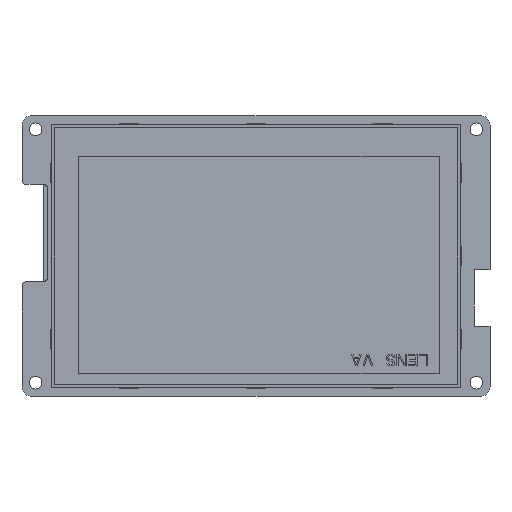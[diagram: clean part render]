
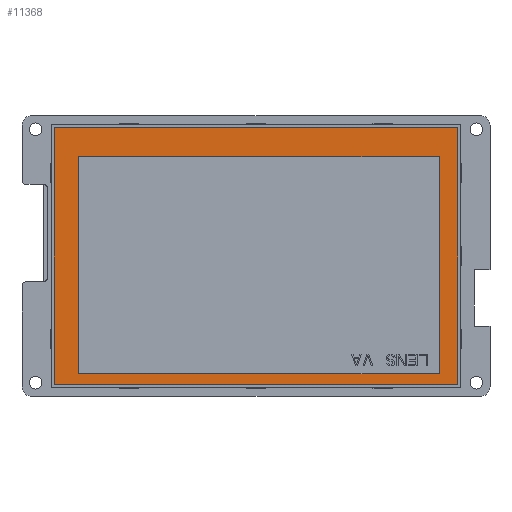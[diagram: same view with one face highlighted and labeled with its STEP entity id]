
A CAD part, front view. The second image highlights one B-rep face of the part: STEP entity #11368.
In plain terms, the highlighted planar face has unit normal (0, -1, 0).
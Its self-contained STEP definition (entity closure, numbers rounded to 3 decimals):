
#9343=CARTESIAN_POINT('',(52.3,0.,-33.2));
#9344=DIRECTION('',(0.,-1.,0.));
#9345=DIRECTION('',(0.,0.,-1.));
#9346=AXIS2_PLACEMENT_3D('',#9343,#9344,#9345);
#9348=DIRECTION('',(-1.,0.,0.));
#9349=VECTOR('',#9348,104.6);
#9350=CARTESIAN_POINT('',(52.3,0.,-33.5));
#9351=LINE('',#9350,#9349);
#9352=CARTESIAN_POINT('',(-52.3,0.,-33.2));
#9353=DIRECTION('',(0.,-1.,0.));
#9354=DIRECTION('',(-1.,0.,0.));
#9355=AXIS2_PLACEMENT_3D('',#9352,#9353,#9354);
#9357=DIRECTION('',(0.,0.,1.));
#9358=VECTOR('',#9357,66.4);
#9359=CARTESIAN_POINT('',(-52.6,0.,-33.2));
#9360=LINE('',#9359,#9358);
#9361=CARTESIAN_POINT('',(-52.3,0.,33.2));
#9362=DIRECTION('',(0.,-1.,0.));
#9363=DIRECTION('',(0.,0.,1.));
#9364=AXIS2_PLACEMENT_3D('',#9361,#9362,#9363);
#9366=DIRECTION('',(1.,0.,0.));
#9367=VECTOR('',#9366,104.6);
#9368=CARTESIAN_POINT('',(-52.3,0.,33.5));
#9369=LINE('',#9368,#9367);
#9370=CARTESIAN_POINT('',(52.3,0.,33.2));
#9371=DIRECTION('',(0.,-1.,0.));
#9372=DIRECTION('',(1.,0.,0.));
#9373=AXIS2_PLACEMENT_3D('',#9370,#9371,#9372);
#9375=DIRECTION('',(0.,0.,-1.));
#9376=VECTOR('',#9375,66.4);
#9377=CARTESIAN_POINT('',(52.6,0.,33.2));
#9378=LINE('',#9377,#9376);
#9379=DIRECTION('',(-1.,0.,0.));
#9380=VECTOR('',#9379,94.);
#9381=CARTESIAN_POINT('',(46.28,0.,30.65));
#9382=LINE('',#9381,#9380);
#9383=DIRECTION('',(0.,0.,-1.));
#9384=VECTOR('',#9383,56.56);
#9385=CARTESIAN_POINT('',(-47.72,0.,30.65));
#9386=LINE('',#9385,#9384);
#9387=DIRECTION('',(1.,0.,0.));
#9388=VECTOR('',#9387,94.);
#9389=CARTESIAN_POINT('',(-47.72,0.,-25.91));
#9390=LINE('',#9389,#9388);
#9391=DIRECTION('',(0.,0.,1.));
#9392=VECTOR('',#9391,56.56);
#9393=CARTESIAN_POINT('',(46.28,0.,-25.91));
#9394=LINE('',#9393,#9392);
#10839=CARTESIAN_POINT('',(52.3,0.,-33.5));
#10840=CARTESIAN_POINT('',(52.6,0.,-33.2));
#10841=VERTEX_POINT('',#10839);
#10842=VERTEX_POINT('',#10840);
#10843=CARTESIAN_POINT('',(-52.6,0.,-33.2));
#10844=CARTESIAN_POINT('',(-52.3,0.,-33.5));
#10845=VERTEX_POINT('',#10843);
#10846=VERTEX_POINT('',#10844);
#10847=CARTESIAN_POINT('',(52.6,0.,33.2));
#10848=CARTESIAN_POINT('',(52.3,0.,33.5));
#10849=VERTEX_POINT('',#10847);
#10850=VERTEX_POINT('',#10848);
#10851=CARTESIAN_POINT('',(-52.3,0.,33.5));
#10852=CARTESIAN_POINT('',(-52.6,0.,33.2));
#10853=VERTEX_POINT('',#10851);
#10854=VERTEX_POINT('',#10852);
#11127=CARTESIAN_POINT('',(46.28,0.,30.65));
#11128=CARTESIAN_POINT('',(-47.72,0.,30.65));
#11129=VERTEX_POINT('',#11127);
#11130=VERTEX_POINT('',#11128);
#11131=CARTESIAN_POINT('',(-47.72,0.,-25.91));
#11132=VERTEX_POINT('',#11131);
#11133=CARTESIAN_POINT('',(46.28,0.,-25.91));
#11134=VERTEX_POINT('',#11133);
#11335=CARTESIAN_POINT('',(0.,0.,0.));
#11336=DIRECTION('',(0.,1.,0.));
#11337=DIRECTION('',(1.,0.,0.));
#11338=AXIS2_PLACEMENT_3D('',#11335,#11336,#11337);
#11339=PLANE('',#11338);
#11341=ORIENTED_EDGE('',*,*,#11340,.F.);
#11343=ORIENTED_EDGE('',*,*,#11342,.T.);
#11345=ORIENTED_EDGE('',*,*,#11344,.F.);
#11347=ORIENTED_EDGE('',*,*,#11346,.T.);
#11349=ORIENTED_EDGE('',*,*,#11348,.F.);
#11351=ORIENTED_EDGE('',*,*,#11350,.T.);
#11353=ORIENTED_EDGE('',*,*,#11352,.F.);
#11355=ORIENTED_EDGE('',*,*,#11354,.T.);
#11356=EDGE_LOOP('',(#11341,#11343,#11345,#11347,#11349,#11351,#11353,#11355));
#11357=FACE_OUTER_BOUND('',#11356,.F.);
#11359=ORIENTED_EDGE('',*,*,#11358,.T.);
#11361=ORIENTED_EDGE('',*,*,#11360,.T.);
#11363=ORIENTED_EDGE('',*,*,#11362,.T.);
#11365=ORIENTED_EDGE('',*,*,#11364,.T.);
#11366=EDGE_LOOP('',(#11359,#11361,#11363,#11365));
#11367=FACE_BOUND('',#11366,.F.);
#9347=CIRCLE('',#9346,0.3);
#9356=CIRCLE('',#9355,0.3);
#9365=CIRCLE('',#9364,0.3);
#9374=CIRCLE('',#9373,0.3);
#11340=EDGE_CURVE('',#10841,#10842,#9347,.T.);
#11342=EDGE_CURVE('',#10841,#10846,#9351,.T.);
#11344=EDGE_CURVE('',#10845,#10846,#9356,.T.);
#11346=EDGE_CURVE('',#10845,#10854,#9360,.T.);
#11348=EDGE_CURVE('',#10853,#10854,#9365,.T.);
#11350=EDGE_CURVE('',#10853,#10850,#9369,.T.);
#11352=EDGE_CURVE('',#10849,#10850,#9374,.T.);
#11354=EDGE_CURVE('',#10849,#10842,#9378,.T.);
#11358=EDGE_CURVE('',#11129,#11130,#9382,.T.);
#11360=EDGE_CURVE('',#11130,#11132,#9386,.T.);
#11362=EDGE_CURVE('',#11132,#11134,#9390,.T.);
#11364=EDGE_CURVE('',#11134,#11129,#9394,.T.);
#11368=ADVANCED_FACE('',(#11357,#11367),#11339,.F.);
